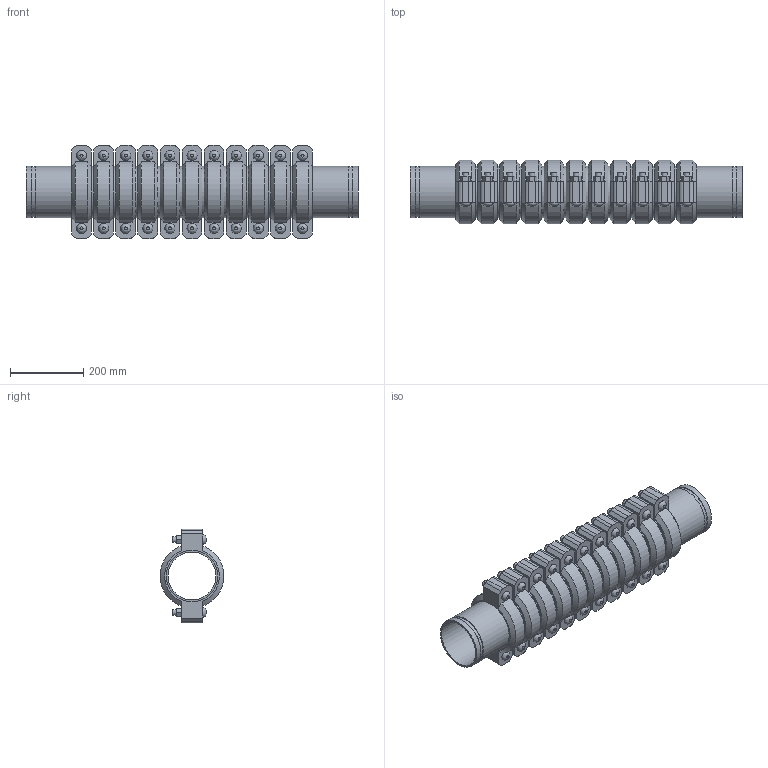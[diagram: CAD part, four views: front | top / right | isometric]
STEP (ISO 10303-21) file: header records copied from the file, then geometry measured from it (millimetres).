
FILE_DESCRIPTION(/* description */ ('VIC EXPANSION JOINT 11 COUPLINGS COMPRESSED STYLE 155 (OGS)','CAx-IF Rec.Pracs.---Representation and Presentation of Product Manufacturing Information (PMI)---4.0---2014-10-13'),/* implementation_level */ '2;1');
FILE_NAME(/* name */ 'C:\Users\kkamble\AppData\Roaming\Autodesk\ApplicationPlugins\Victaulic.Temp\A956\Victaulic_IPS_Expansion Joint_Compressed_11 Couplings_Style 155 (OGS)_5 (125).stp',/* time_stamp */ '2021-06-27T00:19:10+02:00',/* author */ ('kkamble'),/* organization */ ('Victaulic'),/* preprocessor_version */ 'ST-DEVELOPER v17.2',/* originating_system */ 'Autodesk Inventor 2019',/* authorisation */ '');
FILE_SCHEMA (('AP242_MANAGED_MODEL_BASED_3D_ENGINEERING_MIM_LF { 1 0 10303 442 1 1 4 }'));
Length unit declared in the file: inch
Products named in the file (4): 155-05.0; Nipple-05.0; Nipple-05.0_1; 075_11_Coup-05.0
Assembly tree (23 placements, depth 2):
  155-05.0
    Nipple-05.0  x2
    Nipple-05.0_1  x10
    075_11_Coup-05.0  x11
Bounding box: 908.56 x 174.16 x 255.78 mm (x, y, z)
Volume: 9145739.1 mm3; surface area: 1983836.1 mm2
Topology: 23 solids, 45 shells, 771 faces, 1823 edges, 1278 vertices
Faces by surface type: plane 468, cylinder 237, cone 44, bspline 22
Full cylindrical faces by diameter (mm): 15.875 x44, 17.424 x22, 130.988 x12, 134.95 x11, 137.033 x24, 141.3 x58
Entity records: 2906 total; most frequent: CARTESIAN_POINT 507, DIRECTION 489, ORIENTED_EDGE 386, AXIS2_PLACEMENT_3D 198, EDGE_CURVE 193, VERTEX_POINT 138, EDGE_LOOP 107, LINE 93
